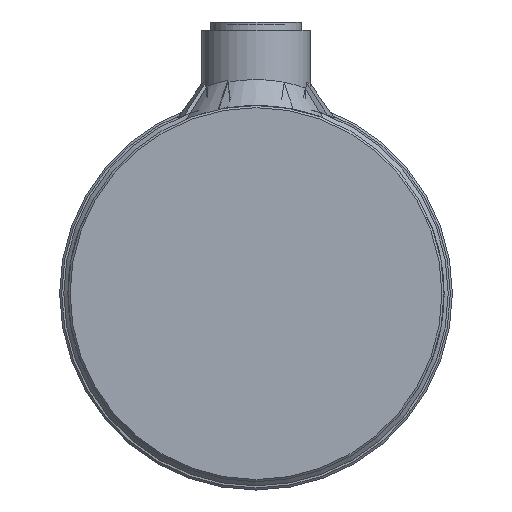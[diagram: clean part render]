
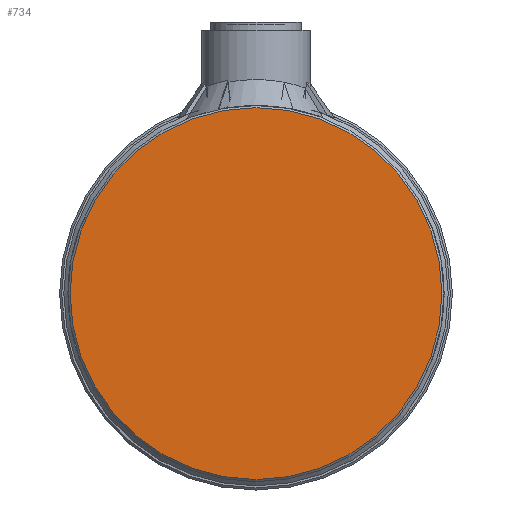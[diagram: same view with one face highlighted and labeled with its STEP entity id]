
A CAD part, left-side view. The second image highlights one B-rep face of the part: STEP entity #734.
In plain terms, the highlighted planar face has unit normal (-1, 0, 0).
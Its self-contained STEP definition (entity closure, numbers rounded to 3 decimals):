
#734 = ADVANCED_FACE( '', ( #1407 ), #1408, .T. );
#1407 = FACE_OUTER_BOUND( '', #2853, .T. );
#1408 = PLANE( '', #2854 );
#2853 = EDGE_LOOP( '', ( #8359 ) );
#2854 = AXIS2_PLACEMENT_3D( '', #8360, #8361, #8362 );
#8359 = ORIENTED_EDGE( '', *, *, #9712, .T. );
#8360 = CARTESIAN_POINT( '', ( -60., 0., 0. ) );
#8361 = DIRECTION( '', ( -1., 0., 0. ) );
#8362 = DIRECTION( '', ( 0., -1., 0. ) );
#9712 = EDGE_CURVE( '', #10421, #10421, #10422, .T. );
#10421 = VERTEX_POINT( '', #11539 );
#10422 = CIRCLE( '', #11540, 44.5 );
#11539 = CARTESIAN_POINT( '', ( -60., -44.5, 0. ) );
#11540 = AXIS2_PLACEMENT_3D( '', #14186, #14187, #14188 );
#14186 = CARTESIAN_POINT( '', ( -60., 0., 0. ) );
#14187 = DIRECTION( '', ( -1., 0., 0. ) );
#14188 = DIRECTION( '', ( 0., -1., 0. ) );
